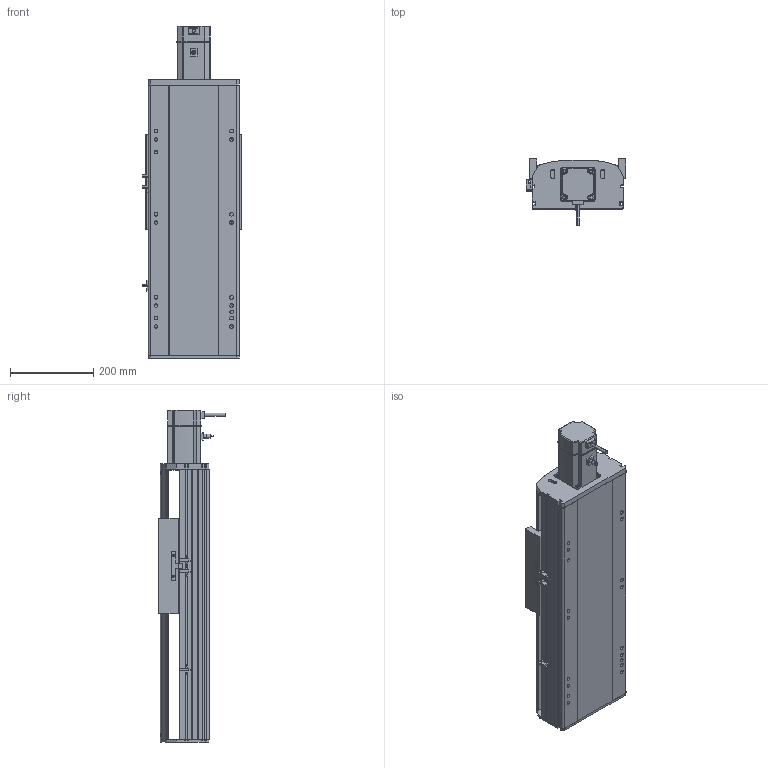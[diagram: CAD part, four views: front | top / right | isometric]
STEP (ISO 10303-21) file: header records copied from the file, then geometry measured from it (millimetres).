
FILE_DESCRIPTION (( 'STEP AP214' ), '1' );
FILE_NAME ('RTH22-XX-250-E-M75-C4.STEP', '2025-10-24T10:41:38', ( 'Microsoft' ), ( 'Microsoft' ), 'SwSTEP 2.0', 'SolidWorks 2018', '' );
FILE_SCHEMA (( 'AUTOMOTIVE_DESIGN' ));
Length unit declared in the file: millimetre
Products named in the file (9): N_RTH22-GY-013外置感应片^RTH22-XX-XX-E-M75-C4; N_RTH22-GY-001耜裔^RTH22-XX-XX-E-M75-C4; N_OMRON EE-SX672 传感器^RTH22-XX-XX-E-M75-C4; N_RTH22-E-011菁釱^RTH22-XX-XX-E-M75-C4; N_750W萇儂^RTH22-XX-XX-E-M75-C4; N_RTH22-E-008萇儂啣^RTH22-XX-XX-E-M75-C4; N_RTH22-E-007奻裔^RTH22-XX-XX-E-M75-C4; RTH22-XX-250-E-M75-C4; N_RTH22-E-004-SFS25賑釱^RTH22-XX-XX-E-M75-C4
Assembly tree (10 placements, depth 2):
  RTH22-XX-250-E-M75-C4
    N_RTH22-E-011菁釱^RTH22-XX-XX-E-M75-C4
    N_RTH22-GY-001耜裔^RTH22-XX-XX-E-M75-C4
    N_RTH22-E-008萇儂啣^RTH22-XX-XX-E-M75-C4
    N_RTH22-E-007奻裔^RTH22-XX-XX-E-M75-C4
    N_RTH22-GY-013外置感应片^RTH22-XX-XX-E-M75-C4
    N_RTH22-E-004-SFS25賑釱^RTH22-XX-XX-E-M75-C4
    N_750W萇儂^RTH22-XX-XX-E-M75-C4
    N_OMRON EE-SX672 传感器^RTH22-XX-XX-E-M75-C4  x3
Bounding box: 238.5 x 160.7 x 799 mm (x, y, z)
Volume: 10651337.7 mm3; surface area: 1144689.2 mm2
Topology: 10 solids, 10 shells, 1487 faces, 4074 edges, 2639 vertices
Faces by surface type: plane 750, cylinder 412, bspline 279, cone 46
Entity records: 36517 total; most frequent: CARTESIAN_POINT 11561, ORIENTED_EDGE 5148, DIRECTION 4780, EDGE_CURVE 2574, VERTEX_POINT 1675, LINE 1608, VECTOR 1608, AXIS2_PLACEMENT_3D 1586
